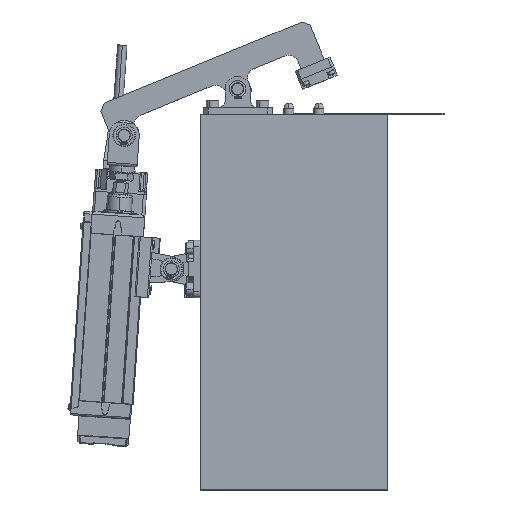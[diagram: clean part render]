
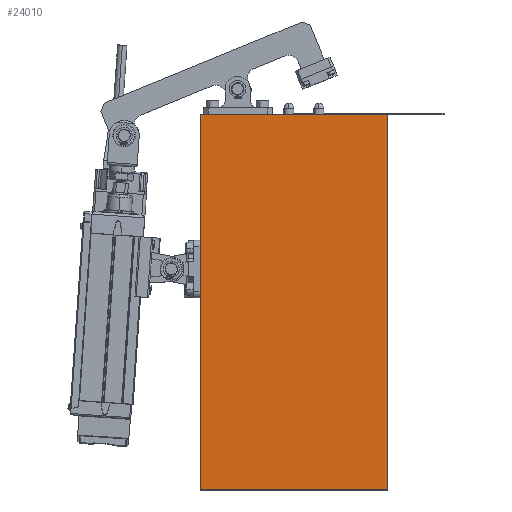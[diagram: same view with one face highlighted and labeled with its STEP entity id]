
A CAD part, top view. The second image highlights one B-rep face of the part: STEP entity #24010.
In plain terms, the highlighted planar face has unit normal (0, 0, 1).
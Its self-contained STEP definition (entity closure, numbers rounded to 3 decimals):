
#3482 = VERTEX_POINT ( 'NONE', #62870 ) ;
#5599 = EDGE_LOOP ( 'NONE', ( #7140, #7793, #30079, #40562 ) ) ;
#6128 = DIRECTION ( 'NONE',  ( 0., 1., 0. ) ) ;
#6937 = CARTESIAN_POINT ( 'NONE',  ( -75., -300., 75. ) ) ;
#7140 = ORIENTED_EDGE ( 'NONE', *, *, #10633, .F. ) ;
#7793 = ORIENTED_EDGE ( 'NONE', *, *, #65065, .F. ) ;
#10633 = EDGE_CURVE ( 'NONE', #35018, #27971, #22194, .T. ) ;
#11308 = DIRECTION ( 'NONE',  ( 1., 0., 0. ) ) ;
#11413 = CARTESIAN_POINT ( 'NONE',  ( 75., -300., 75. ) ) ;
#15509 = EDGE_CURVE ( 'NONE', #3482, #60604, #24043, .T. ) ;
#16738 = PLANE ( 'NONE',  #43994 ) ;
#22194 = LINE ( 'NONE', #42579, #25014 ) ;
#22772 = CARTESIAN_POINT ( 'NONE',  ( -75., -300., 75. ) ) ;
#24010 = ADVANCED_FACE ( 'NONE', ( #43909 ), #16738, .T. ) ;
#24043 = LINE ( 'NONE', #34094, #67908 ) ;
#25014 = VECTOR ( 'NONE', #65463, 1000. ) ;
#27553 = LINE ( 'NONE', #11413, #35851 ) ;
#27971 = VERTEX_POINT ( 'NONE', #52588 ) ;
#28496 = DIRECTION ( 'NONE',  ( 0., 0., 1. ) ) ;
#29079 = DIRECTION ( 'NONE',  ( 1., 0., 0. ) ) ;
#30079 = ORIENTED_EDGE ( 'NONE', *, *, #15509, .T. ) ;
#34094 = CARTESIAN_POINT ( 'NONE',  ( -75., -300., 75. ) ) ;
#35018 = VERTEX_POINT ( 'NONE', #69954 ) ;
#35851 = VECTOR ( 'NONE', #6128, 1000. ) ;
#36651 = VECTOR ( 'NONE', #40161, 1000. ) ;
#40161 = DIRECTION ( 'NONE',  ( 0., 1., 0. ) ) ;
#40562 = ORIENTED_EDGE ( 'NONE', *, *, #54250, .T. ) ;
#42579 = CARTESIAN_POINT ( 'NONE',  ( -75., 0., 75. ) ) ;
#43909 = FACE_OUTER_BOUND ( 'NONE', #5599, .T. ) ;
#43994 = AXIS2_PLACEMENT_3D ( 'NONE', #22772, #28496, #11308 ) ;
#51070 = CARTESIAN_POINT ( 'NONE',  ( 75., -300., 75. ) ) ;
#52588 = CARTESIAN_POINT ( 'NONE',  ( 75., 0., 75. ) ) ;
#54250 = EDGE_CURVE ( 'NONE', #60604, #27971, #27553, .T. ) ;
#60604 = VERTEX_POINT ( 'NONE', #51070 ) ;
#61615 = LINE ( 'NONE', #6937, #36651 ) ;
#62870 = CARTESIAN_POINT ( 'NONE',  ( -75., -300., 75. ) ) ;
#65065 = EDGE_CURVE ( 'NONE', #3482, #35018, #61615, .T. ) ;
#65463 = DIRECTION ( 'NONE',  ( 1., 0., 0. ) ) ;
#67908 = VECTOR ( 'NONE', #29079, 1000. ) ;
#69954 = CARTESIAN_POINT ( 'NONE',  ( -75., 0., 75. ) ) ;
